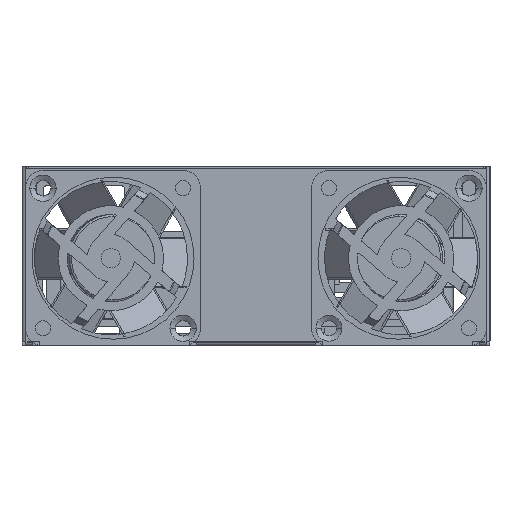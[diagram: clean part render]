
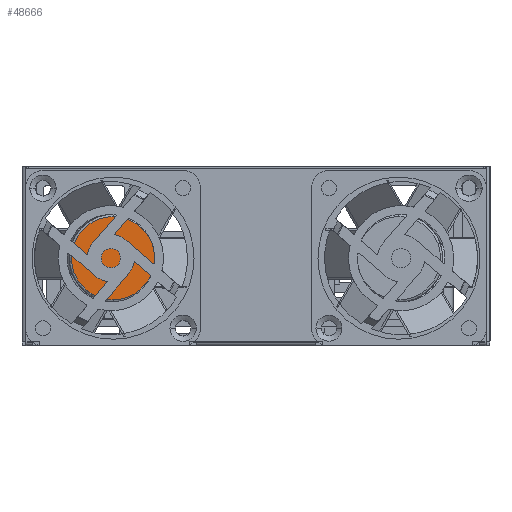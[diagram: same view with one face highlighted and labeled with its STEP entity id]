
A CAD part, front view. The second image highlights one B-rep face of the part: STEP entity #48666.
In plain terms, the highlighted planar face has unit normal (0, -1, 0) as drawn and (0, 0, 1) by its records, which use the part's own axes.
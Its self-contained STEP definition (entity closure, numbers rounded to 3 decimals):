
#46286=CARTESIAN_POINT('',(0.,0.,15.));
#46287=DIRECTION('',(0.,0.,-1.));
#46288=DIRECTION('',(1.,0.,0.));
#46289=AXIS2_PLACEMENT_3D('',#46286,#46287,#46288);
#46294=CARTESIAN_POINT('',(0.,0.,15.));
#46295=DIRECTION('',(0.,0.,-1.));
#46296=DIRECTION('',(-1.,0.,0.));
#46297=AXIS2_PLACEMENT_3D('',#46294,#46295,#46296);
#47335=CARTESIAN_POINT('',(9.5,0.,15.));
#47336=CARTESIAN_POINT('',(-9.5,0.,15.));
#47337=VERTEX_POINT('',#47335);
#47338=VERTEX_POINT('',#47336);
#48656=CARTESIAN_POINT('',(16.,-16.,15.));
#48657=DIRECTION('',(0.,0.,1.));
#48658=DIRECTION('',(1.,0.,0.));
#48659=AXIS2_PLACEMENT_3D('',#48656,#48657,#48658);
#48660=PLANE('',#48659);
#48661=ORIENTED_EDGE('',*,*,#48637,.T.);
#48663=ORIENTED_EDGE('',*,*,#48662,.T.);
#48664=EDGE_LOOP('',(#48661,#48663));
#48665=FACE_OUTER_BOUND('',#48664,.F.);
#46290=CIRCLE('',#46289,9.5);
#46298=CIRCLE('',#46297,9.5);
#48637=EDGE_CURVE('',#47337,#47338,#46290,.T.);
#48662=EDGE_CURVE('',#47338,#47337,#46298,.T.);
#48666=ADVANCED_FACE('',(#48665),#48660,.T.);
